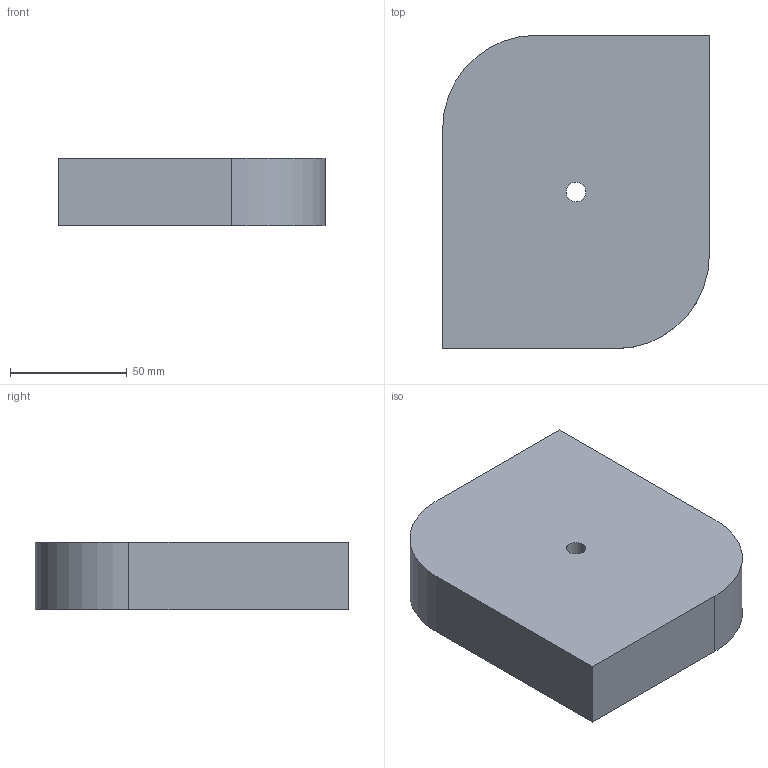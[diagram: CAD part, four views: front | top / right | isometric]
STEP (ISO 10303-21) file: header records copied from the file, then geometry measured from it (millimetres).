
FILE_DESCRIPTION(('CATIA V5 STEP Exchange'),'2;1');
FILE_NAME('C:\_Andres\UNIVERSIDAD\IQS\ASIGNATURAS\DAO\EXF\EXF-15161c\1original\Santolària_Rossell_Ej01-plano_v24.stp','2016-03-04T14:59:47+00:00',('none'),('none'),'CATIA Version 5 Release 20 SP 1 (IN-10)','CATIA V5 STEP AP203','none');
FILE_SCHEMA(('CONFIG_CONTROL_DESIGN'));
Length unit declared in the file: millimetre
Products named in the file (1): Santolària_Rossell_Ej01-plano_v24
Bounding box: 114 x 134 x 29 mm (x, y, z)
Volume: 421491 mm3; surface area: 43219.7 mm2
Topology: 1 solids, 1 shells, 10 faces, 24 edges, 16 vertices
Faces by surface type: plane 6, cylinder 4
Entity records: 333 total; most frequent: CARTESIAN_POINT 51, ORIENTED_EDGE 48, DIRECTION 44, EDGE_CURVE 24, AXIS2_PLACEMENT_3D 19, VECTOR 16, LINE 16, VERTEX_POINT 16
